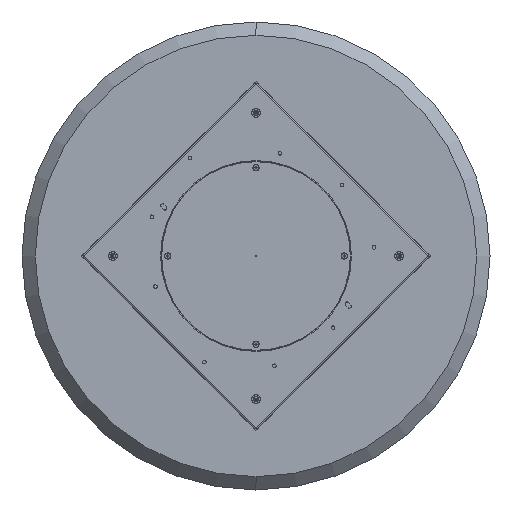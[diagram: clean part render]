
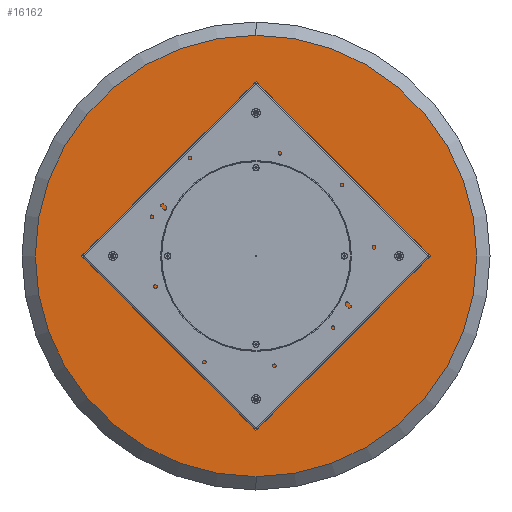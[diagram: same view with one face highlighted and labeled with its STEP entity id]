
A CAD part, front view. The second image highlights one B-rep face of the part: STEP entity #16162.
In plain terms, the highlighted planar face has unit normal (0, -1, 0).
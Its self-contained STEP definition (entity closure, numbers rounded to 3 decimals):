
#168 = DIRECTION ( 'NONE',  ( 0., -1., 0. ) ) ;
#253 = ORIENTED_EDGE ( 'NONE', *, *, #14760, .F. ) ;
#296 = CARTESIAN_POINT ( 'NONE',  ( 0., 0., 0. ) ) ;
#554 = CARTESIAN_POINT ( 'NONE',  ( 0., 0., -400.9 ) ) ;
#1416 = EDGE_CURVE ( 'NONE', #11672, #10900, #2785, .T. ) ;
#1601 = EDGE_CURVE ( 'NONE', #10900, #11672, #11958, .T. ) ;
#1913 = DIRECTION ( 'NONE',  ( 0., 0., -1. ) ) ;
#1988 = VERTEX_POINT ( 'NONE', #14127 ) ;
#2062 = FACE_BOUND ( 'NONE', #12216, .T. ) ;
#2146 = PLANE ( 'NONE',  #4959 ) ;
#2172 = DIRECTION ( 'NONE',  ( 0., 0., -1. ) ) ;
#2307 = EDGE_CURVE ( 'NONE', #7283, #6909, #15902, .T. ) ;
#2433 = CIRCLE ( 'NONE', #6614, 3.4 ) ;
#2622 = CIRCLE ( 'NONE', #13976, 3.4 ) ;
#2626 = CARTESIAN_POINT ( 'NONE',  ( 397.5, 0., -3.4 ) ) ;
#2785 = CIRCLE ( 'NONE', #8318, 3.4 ) ;
#3437 = DIRECTION ( 'NONE',  ( 0., 0., -1. ) ) ;
#3531 = FACE_BOUND ( 'NONE', #15498, .T. ) ;
#3840 = CIRCLE ( 'NONE', #13527, 613. ) ;
#3894 = CARTESIAN_POINT ( 'NONE',  ( 0., 0., 0. ) ) ;
#4294 = EDGE_LOOP ( 'NONE', ( #253, #15111 ) ) ;
#4383 = DIRECTION ( 'NONE',  ( 0., -1., 0. ) ) ;
#4676 = FACE_BOUND ( 'NONE', #4294, .T. ) ;
#4732 = CARTESIAN_POINT ( 'NONE',  ( 0., 0., -397.5 ) ) ;
#4763 = CARTESIAN_POINT ( 'NONE',  ( 397.5, 0., 0. ) ) ;
#4821 = CIRCLE ( 'NONE', #8704, 3.4 ) ;
#4843 = CARTESIAN_POINT ( 'NONE',  ( 397.5, 0., 0. ) ) ;
#4935 = FACE_BOUND ( 'NONE', #9124, .T. ) ;
#4959 = AXIS2_PLACEMENT_3D ( 'NONE', #6074, #6250, #8831 ) ;
#5211 = DIRECTION ( 'NONE',  ( 0., -1., 0. ) ) ;
#5345 = DIRECTION ( 'NONE',  ( 0., -1., 0. ) ) ;
#5467 = DIRECTION ( 'NONE',  ( 0., 0., -1. ) ) ;
#6074 = CARTESIAN_POINT ( 'NONE',  ( 0., 0., 0. ) ) ;
#6147 = EDGE_CURVE ( 'NONE', #13124, #1988, #4821, .T. ) ;
#6250 = DIRECTION ( 'NONE',  ( 0., -1., 0. ) ) ;
#6430 = DIRECTION ( 'NONE',  ( 0., -1., 0. ) ) ;
#6614 = AXIS2_PLACEMENT_3D ( 'NONE', #4843, #13773, #3437 ) ;
#6645 = CIRCLE ( 'NONE', #17148, 3.4 ) ;
#6740 = DIRECTION ( 'NONE',  ( 0., 0., -1. ) ) ;
#6879 = CIRCLE ( 'NONE', #13228, 3.4 ) ;
#6893 = EDGE_CURVE ( 'NONE', #6909, #7283, #2622, .T. ) ;
#6909 = VERTEX_POINT ( 'NONE', #554 ) ;
#7162 = ORIENTED_EDGE ( 'NONE', *, *, #2307, .F. ) ;
#7283 = VERTEX_POINT ( 'NONE', #9645 ) ;
#7628 = VERTEX_POINT ( 'NONE', #10832 ) ;
#7745 = CARTESIAN_POINT ( 'NONE',  ( -397.5, 0., 0. ) ) ;
#8216 = ORIENTED_EDGE ( 'NONE', *, *, #1416, .F. ) ;
#8318 = AXIS2_PLACEMENT_3D ( 'NONE', #13801, #8776, #1913 ) ;
#8420 = AXIS2_PLACEMENT_3D ( 'NONE', #15196, #11139, #8889 ) ;
#8440 = EDGE_CURVE ( 'NONE', #7628, #11862, #8718, .T. ) ;
#8704 = AXIS2_PLACEMENT_3D ( 'NONE', #16827, #5211, #8938 ) ;
#8718 = CIRCLE ( 'NONE', #12046, 613. ) ;
#8748 = DIRECTION ( 'NONE',  ( 0., 0., -1. ) ) ;
#8776 = DIRECTION ( 'NONE',  ( 0., -1., 0. ) ) ;
#8831 = DIRECTION ( 'NONE',  ( 0., 0., -1. ) ) ;
#8889 = DIRECTION ( 'NONE',  ( 0., 0., -1. ) ) ;
#8938 = DIRECTION ( 'NONE',  ( 0., 0., -1. ) ) ;
#9124 = EDGE_LOOP ( 'NONE', ( #17090, #16768 ) ) ;
#9185 = DIRECTION ( 'NONE',  ( 0., 0., -1. ) ) ;
#9645 = CARTESIAN_POINT ( 'NONE',  ( 0., 0., -394.1 ) ) ;
#10665 = VERTEX_POINT ( 'NONE', #11826 ) ;
#10812 = ORIENTED_EDGE ( 'NONE', *, *, #6893, .F. ) ;
#10832 = CARTESIAN_POINT ( 'NONE',  ( 0., 0., 613. ) ) ;
#10900 = VERTEX_POINT ( 'NONE', #16070 ) ;
#11012 = EDGE_LOOP ( 'NONE', ( #12008, #16239 ) ) ;
#11139 = DIRECTION ( 'NONE',  ( 0., -1., 0. ) ) ;
#11546 = DIRECTION ( 'NONE',  ( 0., -1., 0. ) ) ;
#11672 = VERTEX_POINT ( 'NONE', #14619 ) ;
#11826 = CARTESIAN_POINT ( 'NONE',  ( 397.5, 0., 3.4 ) ) ;
#11862 = VERTEX_POINT ( 'NONE', #12613 ) ;
#11958 = CIRCLE ( 'NONE', #13078, 3.4 ) ;
#11963 = CARTESIAN_POINT ( 'NONE',  ( 0., 0., 394.1 ) ) ;
#12008 = ORIENTED_EDGE ( 'NONE', *, *, #8440, .T. ) ;
#12046 = AXIS2_PLACEMENT_3D ( 'NONE', #3894, #6430, #9185 ) ;
#12216 = EDGE_LOOP ( 'NONE', ( #10812, #7162 ) ) ;
#12613 = CARTESIAN_POINT ( 'NONE',  ( 0., 0., -613. ) ) ;
#12680 = VERTEX_POINT ( 'NONE', #2626 ) ;
#12724 = FACE_OUTER_BOUND ( 'NONE', #11012, .T. ) ;
#13078 = AXIS2_PLACEMENT_3D ( 'NONE', #7745, #11546, #2172 ) ;
#13124 = VERTEX_POINT ( 'NONE', #11963 ) ;
#13228 = AXIS2_PLACEMENT_3D ( 'NONE', #13354, #168, #5467 ) ;
#13342 = EDGE_CURVE ( 'NONE', #1988, #13124, #6879, .T. ) ;
#13354 = CARTESIAN_POINT ( 'NONE',  ( 0., 0., 397.5 ) ) ;
#13472 = EDGE_CURVE ( 'NONE', #10665, #12680, #2433, .T. ) ;
#13527 = AXIS2_PLACEMENT_3D ( 'NONE', #296, #5345, #6740 ) ;
#13773 = DIRECTION ( 'NONE',  ( 0., -1., 0. ) ) ;
#13801 = CARTESIAN_POINT ( 'NONE',  ( -397.5, 0., 0. ) ) ;
#13976 = AXIS2_PLACEMENT_3D ( 'NONE', #4732, #4383, #14866 ) ;
#14034 = DIRECTION ( 'NONE',  ( 0., -1., 0. ) ) ;
#14127 = CARTESIAN_POINT ( 'NONE',  ( 0., 0., 400.9 ) ) ;
#14619 = CARTESIAN_POINT ( 'NONE',  ( -397.5, 0., -3.4 ) ) ;
#14760 = EDGE_CURVE ( 'NONE', #12680, #10665, #6645, .T. ) ;
#14866 = DIRECTION ( 'NONE',  ( 0., 0., -1. ) ) ;
#15111 = ORIENTED_EDGE ( 'NONE', *, *, #13472, .F. ) ;
#15196 = CARTESIAN_POINT ( 'NONE',  ( 0., 0., -397.5 ) ) ;
#15498 = EDGE_LOOP ( 'NONE', ( #8216, #16345 ) ) ;
#15507 = EDGE_CURVE ( 'NONE', #11862, #7628, #3840, .T. ) ;
#15902 = CIRCLE ( 'NONE', #8420, 3.4 ) ;
#16070 = CARTESIAN_POINT ( 'NONE',  ( -397.5, 0., 3.4 ) ) ;
#16162 = ADVANCED_FACE ( 'NONE', ( #12724, #2062, #3531, #4676, #4935 ), #2146, .T. ) ;
#16239 = ORIENTED_EDGE ( 'NONE', *, *, #15507, .T. ) ;
#16345 = ORIENTED_EDGE ( 'NONE', *, *, #1601, .F. ) ;
#16768 = ORIENTED_EDGE ( 'NONE', *, *, #13342, .F. ) ;
#16827 = CARTESIAN_POINT ( 'NONE',  ( 0., 0., 397.5 ) ) ;
#17090 = ORIENTED_EDGE ( 'NONE', *, *, #6147, .F. ) ;
#17148 = AXIS2_PLACEMENT_3D ( 'NONE', #4763, #14034, #8748 ) ;
